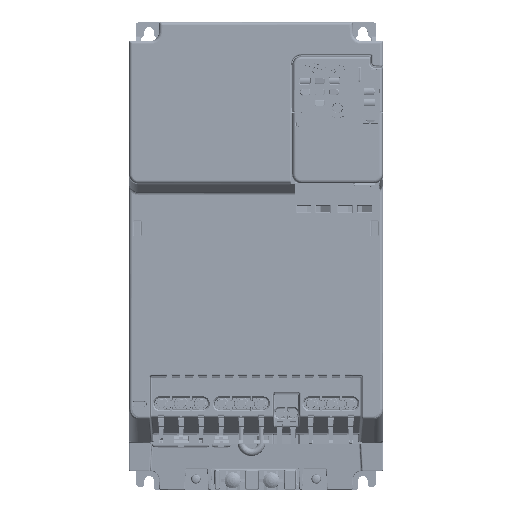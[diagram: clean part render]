
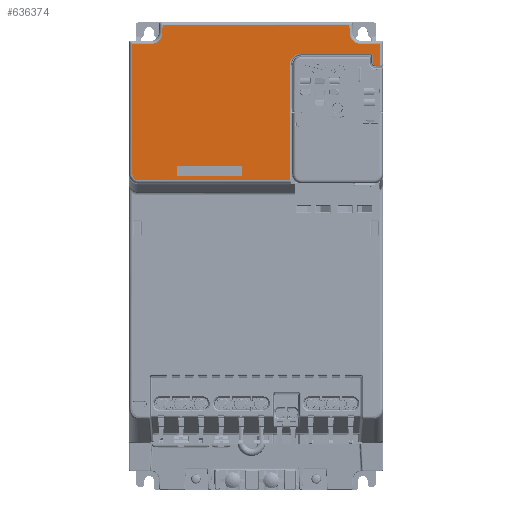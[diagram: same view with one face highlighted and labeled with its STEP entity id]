
A CAD part, top view. The second image highlights one B-rep face of the part: STEP entity #636374.
In plain terms, the highlighted planar face has unit normal (0, 0, 1).
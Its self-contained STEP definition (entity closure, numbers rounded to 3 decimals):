
#529490=DIRECTION('',(-0.999,0.052,0.));
#529491=VECTOR('',#529490,3.587);
#529492=CARTESIAN_POINT('',(92.5,142.748,
100.));
#529493=LINE('',#529492,#529491);
#529494=CARTESIAN_POINT('',(89.,144.5,100.));
#529495=DIRECTION('',(0.,0.,-1.));
#529496=DIRECTION('',(-0.052,-0.999,0.));
#529497=AXIS2_PLACEMENT_3D('',#529494,#529495,#529496);
#529499=CARTESIAN_POINT('',(87.433,149.184,
100.));
#529500=CARTESIAN_POINT('',(87.433,149.462,
100.));
#529501=CARTESIAN_POINT('',(87.325,149.972,
100.));
#529502=CARTESIAN_POINT('',(86.885,150.635,
100.));
#529503=CARTESIAN_POINT('',(86.222,151.075,
100.));
#529504=CARTESIAN_POINT('',(85.712,151.183,
100.));
#529505=CARTESIAN_POINT('',(85.434,151.183,
100.));
#529507=CARTESIAN_POINT('',(34.,142.5,100.));
#529508=DIRECTION('',(0.,0.,1.));
#529509=DIRECTION('',(0.,1.,0.));
#529510=AXIS2_PLACEMENT_3D('',#529507,#529508,#529509);
#529512=CARTESIAN_POINT('',(-87.997,60.975,
100.));
#529513=DIRECTION('',(0.,0.,-1.));
#529514=DIRECTION('',(-0.001,-1.,
0.));
#529515=AXIS2_PLACEMENT_3D('',#529512,#529513,#529514);
#529517=CARTESIAN_POINT('',(-78.694,167.,100.));
#529518=DIRECTION('',(0.,0.,1.));
#529519=DIRECTION('',(0.,-1.,0.));
#529520=AXIS2_PLACEMENT_3D('',#529517,#529518,#529519);
#529522=DIRECTION('',(0.052,0.999,0.));
#529523=VECTOR('',#529522,5.953);
#529524=CARTESIAN_POINT('',(-70.205,166.555,100.));
#529525=LINE('',#529524,#529523);
#529526=DIRECTION('',(0.052,-0.999,0.));
#529527=VECTOR('',#529526,5.953);
#529528=CARTESIAN_POINT('',(69.894,172.5,100.));
#529529=LINE('',#529528,#529527);
#529530=CARTESIAN_POINT('',(78.694,167.,100.));
#529531=DIRECTION('',(0.,0.,1.));
#529532=DIRECTION('',(-0.999,-0.052,0.));
#529533=AXIS2_PLACEMENT_3D('',#529530,#529531,#529532);
#529535=DIRECTION('',(0.,1.,0.));
#529536=VECTOR('',#529535,15.752);
#529537=CARTESIAN_POINT('',(92.5,142.748,
100.));
#529538=LINE('',#529537,#529536);
#529574=DIRECTION('',(-1.,0.,0.));
#529575=VECTOR('',#529574,13.806);
#529576=CARTESIAN_POINT('',(92.5,158.5,100.));
#529577=LINE('',#529576,#529575);
#529635=DIRECTION('',(-1.,0.,0.));
#529636=VECTOR('',#529635,139.788);
#529637=CARTESIAN_POINT('',(69.894,172.5,100.));
#529638=LINE('',#529637,#529636);
#531472=DIRECTION('',(1.,0.,0.));
#531473=VECTOR('',#531472,51.434);
#531474=CARTESIAN_POINT('',(34.,151.183,100.));
#531475=LINE('',#531474,#531473);
#531491=DIRECTION('',(0.,1.,0.));
#531492=VECTOR('',#531491,86.028);
#531493=CARTESIAN_POINT('',(25.317,56.472,
100.));
#531494=LINE('',#531493,#531492);
#531521=DIRECTION('',(1.,0.,0.));
#531522=VECTOR('',#531521,113.317);
#531523=CARTESIAN_POINT('',(-88.001,56.472,
100.));
#531524=LINE('',#531523,#531522);
#531586=DIRECTION('',(0.,-1.,0.));
#531587=VECTOR('',#531586,97.521);
#531588=CARTESIAN_POINT('',(-92.5,158.5,100.));
#531589=LINE('',#531588,#531587);
#532360=DIRECTION('',(-1.,0.,0.));
#532361=VECTOR('',#532360,13.806);
#532362=CARTESIAN_POINT('',(-78.694,158.5,100.));
#532363=LINE('',#532362,#532361);
#532414=DIRECTION('',(0.,-1.,0.));
#532415=VECTOR('',#532414,4.684);
#532416=CARTESIAN_POINT('',(87.433,149.184,
100.));
#532417=LINE('',#532416,#532415);
#579247=CARTESIAN_POINT('',(-92.5,60.979,100.));
#579248=VERTEX_POINT('',#579247);
#579249=CARTESIAN_POINT('',(-88.003,56.472,
100.));
#579250=VERTEX_POINT('',#579249);
#579251=CARTESIAN_POINT('',(-92.5,158.5,100.));
#579252=VERTEX_POINT('',#579251);
#579253=CARTESIAN_POINT('',(92.5,142.748,
100.));
#579254=CARTESIAN_POINT('',(92.5,158.5,100.));
#579255=VERTEX_POINT('',#579253);
#579256=VERTEX_POINT('',#579254);
#579257=CARTESIAN_POINT('',(88.918,142.936,100.));
#579258=VERTEX_POINT('',#579257);
#579259=CARTESIAN_POINT('',(87.433,144.5,100.));
#579260=VERTEX_POINT('',#579259);
#579261=CARTESIAN_POINT('',(87.433,149.184,
100.));
#579262=VERTEX_POINT('',#579261);
#579263=VERTEX_POINT('',#529505);
#579264=CARTESIAN_POINT('',(34.,151.183,100.));
#579265=VERTEX_POINT('',#579264);
#579266=CARTESIAN_POINT('',(25.317,142.5,100.));
#579267=VERTEX_POINT('',#579266);
#579268=CARTESIAN_POINT('',(25.317,56.472,
100.));
#579269=VERTEX_POINT('',#579268);
#579270=CARTESIAN_POINT('',(-78.694,158.5,100.));
#579271=VERTEX_POINT('',#579270);
#579272=CARTESIAN_POINT('',(-70.205,166.555,100.));
#579273=VERTEX_POINT('',#579272);
#579274=CARTESIAN_POINT('',(-69.894,172.5,100.));
#579275=VERTEX_POINT('',#579274);
#579276=CARTESIAN_POINT('',(69.894,172.5,100.));
#579277=VERTEX_POINT('',#579276);
#579278=CARTESIAN_POINT('',(70.205,166.555,100.));
#579279=VERTEX_POINT('',#579278);
#579280=CARTESIAN_POINT('',(78.694,158.5,100.));
#579281=VERTEX_POINT('',#579280);
#636332=CARTESIAN_POINT('',(0.,0.,100.));
#636333=DIRECTION('',(0.,0.,1.));
#636334=DIRECTION('',(1.,0.,0.));
#636335=AXIS2_PLACEMENT_3D('',#636332,#636333,#636334);
#636336=PLANE('',#636335);
#636338=ORIENTED_EDGE('',*,*,#636337,.F.);
#636340=ORIENTED_EDGE('',*,*,#636339,.T.);
#636342=ORIENTED_EDGE('',*,*,#636341,.T.);
#636344=ORIENTED_EDGE('',*,*,#636343,.F.);
#636346=ORIENTED_EDGE('',*,*,#636345,.T.);
#636348=ORIENTED_EDGE('',*,*,#636347,.F.);
#636350=ORIENTED_EDGE('',*,*,#636349,.T.);
#636352=ORIENTED_EDGE('',*,*,#636351,.F.);
#636354=ORIENTED_EDGE('',*,*,#636353,.F.);
#636356=ORIENTED_EDGE('',*,*,#636355,.T.);
#636358=ORIENTED_EDGE('',*,*,#636357,.F.);
#636360=ORIENTED_EDGE('',*,*,#636359,.F.);
#636362=ORIENTED_EDGE('',*,*,#636361,.T.);
#636363=ORIENTED_EDGE('',*,*,#636323,.T.);
#636365=ORIENTED_EDGE('',*,*,#636364,.F.);
#636367=ORIENTED_EDGE('',*,*,#636366,.T.);
#636369=ORIENTED_EDGE('',*,*,#636368,.T.);
#636371=ORIENTED_EDGE('',*,*,#636370,.F.);
#636372=EDGE_LOOP('',(#636338,#636340,#636342,#636344,#636346,#636348,#636350,
#636352,#636354,#636356,#636358,#636360,#636362,#636363,#636365,#636367,#636369,
#636371));
#636373=FACE_OUTER_BOUND('',#636372,.F.);
#636374=ADVANCED_FACE('',(#636373),#636336,.T.);
#529498=CIRCLE('',#529497,1.567);
#529506=B_SPLINE_CURVE_WITH_KNOTS('',3,(#529499,#529500,#529501,#529502,#529503,
#529504,#529505),.UNSPECIFIED.,.F.,.F.,(4,1,1,1,4),(0.,0.25,0.5,0.75,
1.),.UNSPECIFIED.);
#529511=CIRCLE('',#529510,8.683);
#529516=CIRCLE('',#529515,4.503);
#529521=CIRCLE('',#529520,8.5);
#529534=CIRCLE('',#529533,8.5);
#636323=EDGE_CURVE('',#579273,#579275,#529525,.T.);
#636337=EDGE_CURVE('',#579255,#579256,#529538,.T.);
#636339=EDGE_CURVE('',#579255,#579258,#529493,.T.);
#636341=EDGE_CURVE('',#579258,#579260,#529498,.T.);
#636343=EDGE_CURVE('',#579262,#579260,#532417,.T.);
#636345=EDGE_CURVE('',#579262,#579263,#529506,.T.);
#636347=EDGE_CURVE('',#579265,#579263,#531475,.T.);
#636349=EDGE_CURVE('',#579265,#579267,#529511,.T.);
#636351=EDGE_CURVE('',#579269,#579267,#531494,.T.);
#636353=EDGE_CURVE('',#579250,#579269,#531524,.T.);
#636355=EDGE_CURVE('',#579250,#579248,#529516,.T.);
#636357=EDGE_CURVE('',#579252,#579248,#531589,.T.);
#636359=EDGE_CURVE('',#579271,#579252,#532363,.T.);
#636361=EDGE_CURVE('',#579271,#579273,#529521,.T.);
#636364=EDGE_CURVE('',#579277,#579275,#529638,.T.);
#636366=EDGE_CURVE('',#579277,#579279,#529529,.T.);
#636368=EDGE_CURVE('',#579279,#579281,#529534,.T.);
#636370=EDGE_CURVE('',#579256,#579281,#529577,.T.);
